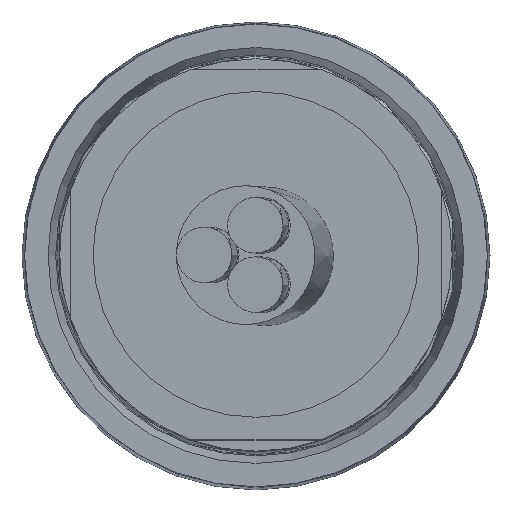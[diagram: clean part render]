
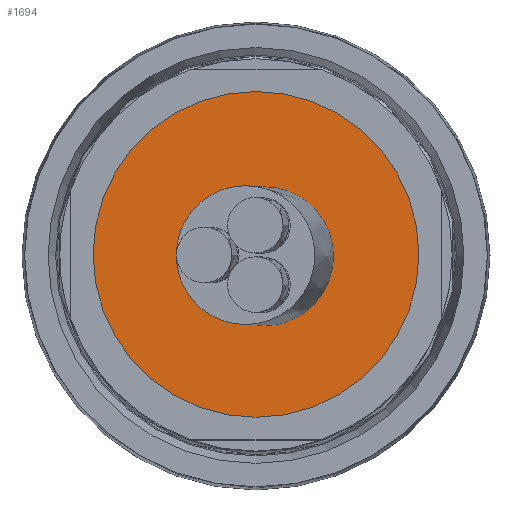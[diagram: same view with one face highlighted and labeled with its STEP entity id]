
A CAD part, top view. The second image highlights one B-rep face of the part: STEP entity #1694.
In plain terms, the highlighted planar face has unit normal (0, 0, 1).
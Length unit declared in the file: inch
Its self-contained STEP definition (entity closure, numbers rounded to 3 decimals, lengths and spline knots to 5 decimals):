
#70 = FACE_OUTER_BOUND ( 'NONE', #2127, .T. ) ;
#165 = EDGE_CURVE ( 'NONE', #1543, #1543, #1263, .T. ) ;
#193 = CARTESIAN_POINT ( 'NONE',  ( 0., 0., 3.63332 ) ) ;
#268 = AXIS2_PLACEMENT_3D ( 'NONE', #1460, #906, #930 ) ;
#778 = PLANE ( 'NONE',  #1920 ) ;
#905 = DIRECTION ( 'NONE',  ( 0., 0., 1. ) ) ;
#906 = DIRECTION ( 'NONE',  ( 0., 0., 1. ) ) ;
#930 = DIRECTION ( 'NONE',  ( 0., -1., 0. ) ) ;
#1088 = DIRECTION ( 'NONE',  ( 0., -1., 0. ) ) ;
#1263 = CIRCLE ( 'NONE', #268, 0.44 ) ;
#1460 = CARTESIAN_POINT ( 'NONE',  ( 0., 0., 3.63332 ) ) ;
#1543 = VERTEX_POINT ( 'NONE', #1860 ) ;
#1694 = ADVANCED_FACE ( 'NONE', ( #70 ), #778, .T. ) ;
#1860 = CARTESIAN_POINT ( 'NONE',  ( 0., -0.44, 3.63332 ) ) ;
#1920 = AXIS2_PLACEMENT_3D ( 'NONE', #193, #905, #1088 ) ;
#2016 = ORIENTED_EDGE ( 'NONE', *, *, #165, .T. ) ;
#2127 = EDGE_LOOP ( 'NONE', ( #2016 ) ) ;
